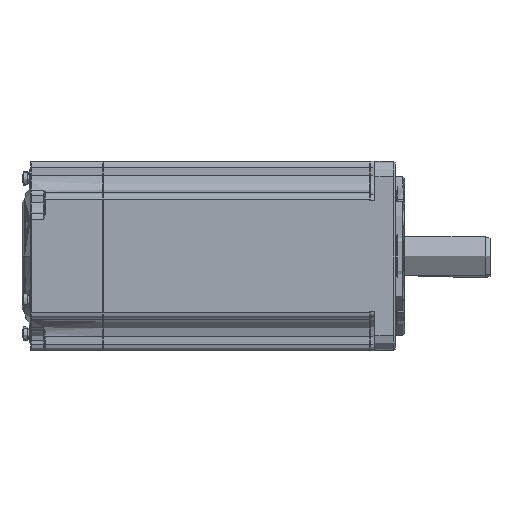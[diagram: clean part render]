
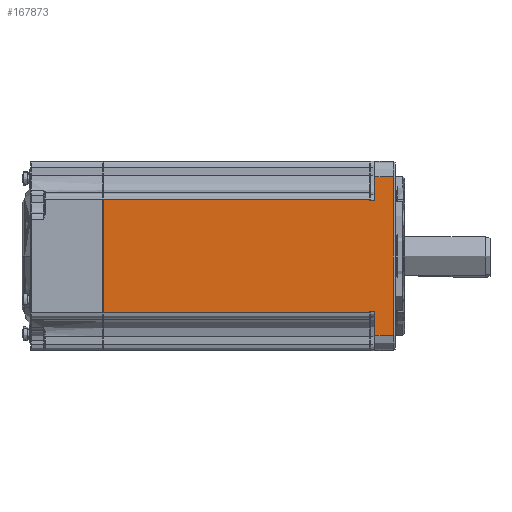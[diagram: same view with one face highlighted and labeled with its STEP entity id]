
A CAD part, front view. The second image highlights one B-rep face of the part: STEP entity #167873.
In plain terms, the highlighted planar face has unit normal (0, -1, 0).
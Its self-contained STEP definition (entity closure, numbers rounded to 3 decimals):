
#2741 = ORIENTED_EDGE ( 'NONE', *, *, #62482, .T. ) ;
#4476 = EDGE_CURVE ( 'NONE', #61574, #68061, #138260, .T. ) ;
#13632 = ORIENTED_EDGE ( 'NONE', *, *, #105977, .T. ) ;
#14280 = CARTESIAN_POINT ( 'NONE',  ( 42.722, -79.847, 156.323 ) ) ;
#17277 = LINE ( 'NONE', #17592, #132458 ) ;
#17592 = CARTESIAN_POINT ( 'NONE',  ( 17.452, -79.847, 120.823 ) ) ;
#18153 = DIRECTION ( 'NONE',  ( 0., 0., 1. ) ) ;
#23506 = VECTOR ( 'NONE', #111476, 1000. ) ;
#25713 = DIRECTION ( 'NONE',  ( 0., 0., -1. ) ) ;
#26508 = DIRECTION ( 'NONE',  ( 0., 0., -1. ) ) ;
#26813 = LINE ( 'NONE', #14280, #38971 ) ;
#27110 = DIRECTION ( 'NONE',  ( 0., 0., 1. ) ) ;
#29461 = PLANE ( 'NONE',  #144890 ) ;
#34611 = DIRECTION ( 'NONE',  ( 0., 0., 1. ) ) ;
#36055 = ORIENTED_EDGE ( 'NONE', *, *, #188214, .F. ) ;
#36255 = CARTESIAN_POINT ( 'NONE',  ( 19.052, -79.847, 120.823 ) ) ;
#36916 = VECTOR ( 'NONE', #148660, 1000. ) ;
#37228 = LINE ( 'NONE', #155965, #179386 ) ;
#38971 = VECTOR ( 'NONE', #91526, 1000. ) ;
#41772 = DIRECTION ( 'NONE',  ( 0., -1., 0. ) ) ;
#43068 = VECTOR ( 'NONE', #114732, 1000. ) ;
#46047 = ORIENTED_EDGE ( 'NONE', *, *, #107138, .T. ) ;
#49461 = EDGE_CURVE ( 'NONE', #77376, #193400, #17277, .T. ) ;
#53343 = CARTESIAN_POINT ( 'NONE',  ( -66.648, -79.847, 120.323 ) ) ;
#54624 = LINE ( 'NONE', #61374, #66811 ) ;
#54689 = CARTESIAN_POINT ( 'NONE',  ( 24.952, -79.847, 113.323 ) ) ;
#57643 = VECTOR ( 'NONE', #62665, 1000. ) ;
#58471 = ORIENTED_EDGE ( 'NONE', *, *, #49461, .T. ) ;
#60022 = LINE ( 'NONE', #173732, #57643 ) ;
#61374 = CARTESIAN_POINT ( 'NONE',  ( 19.052, -79.847, 168.323 ) ) ;
#61574 = VERTEX_POINT ( 'NONE', #115400 ) ;
#62482 = EDGE_CURVE ( 'NONE', #159603, #63142, #26813, .T. ) ;
#62665 = DIRECTION ( 'NONE',  ( 0., 0., 1. ) ) ;
#63142 = VERTEX_POINT ( 'NONE', #159679 ) ;
#63296 = ORIENTED_EDGE ( 'NONE', *, *, #133311, .F. ) ;
#65812 = LINE ( 'NONE', #190749, #173839 ) ;
#66811 = VECTOR ( 'NONE', #26508, 1000. ) ;
#68061 = VERTEX_POINT ( 'NONE', #120651 ) ;
#75840 = CARTESIAN_POINT ( 'NONE',  ( 17.452, -79.847, 155.823 ) ) ;
#77376 = VERTEX_POINT ( 'NONE', #130288 ) ;
#81754 = EDGE_CURVE ( 'NONE', #187519, #109878, #54624, .T. ) ;
#86592 = EDGE_LOOP ( 'NONE', ( #36055, #63296, #58471, #175029, #195840, #145693, #46047, #198657, #128327, #147145, #13632, #2741 ) ) ;
#91526 = DIRECTION ( 'NONE',  ( -1., 0., 0. ) ) ;
#99108 = EDGE_CURVE ( 'NONE', #200440, #61574, #111436, .T. ) ;
#101872 = CARTESIAN_POINT ( 'NONE',  ( 19.052, -79.847, 113.323 ) ) ;
#104586 = CARTESIAN_POINT ( 'NONE',  ( 17.452, -79.847, 120.823 ) ) ;
#104748 = CARTESIAN_POINT ( 'NONE',  ( -153.301, -79.847, 168.323 ) ) ;
#105977 = EDGE_CURVE ( 'NONE', #106580, #159603, #60022, .T. ) ;
#106580 = VERTEX_POINT ( 'NONE', #75840 ) ;
#107138 = EDGE_CURVE ( 'NONE', #124221, #200440, #197172, .T. ) ;
#109878 = VERTEX_POINT ( 'NONE', #101872 ) ;
#111436 = LINE ( 'NONE', #158181, #23506 ) ;
#111476 = DIRECTION ( 'NONE',  ( -1., 0., 0. ) ) ;
#114732 = DIRECTION ( 'NONE',  ( -1., 0., 0. ) ) ;
#115400 = CARTESIAN_POINT ( 'NONE',  ( 19.052, -79.847, 163.323 ) ) ;
#118112 = EDGE_CURVE ( 'NONE', #106580, #68061, #37228, .T. ) ;
#120651 = CARTESIAN_POINT ( 'NONE',  ( 19.052, -79.847, 155.823 ) ) ;
#121126 = CARTESIAN_POINT ( 'NONE',  ( 24.952, -79.847, 163.323 ) ) ;
#124221 = VERTEX_POINT ( 'NONE', #54689 ) ;
#125105 = DIRECTION ( 'NONE',  ( 1., 0., 0. ) ) ;
#126998 = VECTOR ( 'NONE', #150451, 1000. ) ;
#128327 = ORIENTED_EDGE ( 'NONE', *, *, #4476, .T. ) ;
#128528 = CARTESIAN_POINT ( 'NONE',  ( 42.722, -79.847, 120.323 ) ) ;
#128866 = LINE ( 'NONE', #128528, #43068 ) ;
#130288 = CARTESIAN_POINT ( 'NONE',  ( 17.452, -79.847, 120.323 ) ) ;
#132458 = VECTOR ( 'NONE', #34611, 1000. ) ;
#133311 = EDGE_CURVE ( 'NONE', #77376, #139220, #128866, .T. ) ;
#134732 = CARTESIAN_POINT ( 'NONE',  ( 24.952, -79.847, 163.323 ) ) ;
#135359 = CARTESIAN_POINT ( 'NONE',  ( 19.052, -79.847, 168.323 ) ) ;
#135887 = VECTOR ( 'NONE', #25713, 1000. ) ;
#137072 = DIRECTION ( 'NONE',  ( -1., 0., 0. ) ) ;
#138260 = LINE ( 'NONE', #135359, #135887 ) ;
#139220 = VERTEX_POINT ( 'NONE', #53343 ) ;
#144107 = LINE ( 'NONE', #166901, #126998 ) ;
#144890 = AXIS2_PLACEMENT_3D ( 'NONE', #104748, #41772, #137072 ) ;
#145245 = FACE_OUTER_BOUND ( 'NONE', #86592, .T. ) ;
#145693 = ORIENTED_EDGE ( 'NONE', *, *, #169666, .T. ) ;
#147145 = ORIENTED_EDGE ( 'NONE', *, *, #118112, .F. ) ;
#148660 = DIRECTION ( 'NONE',  ( 1., 0., 0. ) ) ;
#148894 = CARTESIAN_POINT ( 'NONE',  ( 17.452, -79.847, 156.323 ) ) ;
#149974 = CARTESIAN_POINT ( 'NONE',  ( -153.301, -79.847, 113.323 ) ) ;
#150451 = DIRECTION ( 'NONE',  ( 1., 0., 0. ) ) ;
#155965 = CARTESIAN_POINT ( 'NONE',  ( 17.652, -79.847, 155.823 ) ) ;
#158181 = CARTESIAN_POINT ( 'NONE',  ( -153.301, -79.847, 163.323 ) ) ;
#159603 = VERTEX_POINT ( 'NONE', #148894 ) ;
#159679 = CARTESIAN_POINT ( 'NONE',  ( -66.648, -79.847, 156.323 ) ) ;
#166901 = CARTESIAN_POINT ( 'NONE',  ( 17.652, -79.847, 120.823 ) ) ;
#167873 = ADVANCED_FACE ( 'NONE', ( #145245 ), #29461, .T. ) ;
#169666 = EDGE_CURVE ( 'NONE', #109878, #124221, #181580, .T. ) ;
#172616 = EDGE_CURVE ( 'NONE', #193400, #187519, #144107, .T. ) ;
#173732 = CARTESIAN_POINT ( 'NONE',  ( 17.452, -79.847, 156.323 ) ) ;
#173839 = VECTOR ( 'NONE', #18153, 1000. ) ;
#175029 = ORIENTED_EDGE ( 'NONE', *, *, #172616, .T. ) ;
#179386 = VECTOR ( 'NONE', #125105, 1000. ) ;
#180061 = VECTOR ( 'NONE', #27110, 1000. ) ;
#181580 = LINE ( 'NONE', #149974, #36916 ) ;
#187519 = VERTEX_POINT ( 'NONE', #36255 ) ;
#188214 = EDGE_CURVE ( 'NONE', #139220, #63142, #65812, .T. ) ;
#190749 = CARTESIAN_POINT ( 'NONE',  ( -66.648, -79.847, 168.323 ) ) ;
#193400 = VERTEX_POINT ( 'NONE', #104586 ) ;
#195840 = ORIENTED_EDGE ( 'NONE', *, *, #81754, .T. ) ;
#197172 = LINE ( 'NONE', #134732, #180061 ) ;
#198657 = ORIENTED_EDGE ( 'NONE', *, *, #99108, .T. ) ;
#200440 = VERTEX_POINT ( 'NONE', #121126 ) ;
